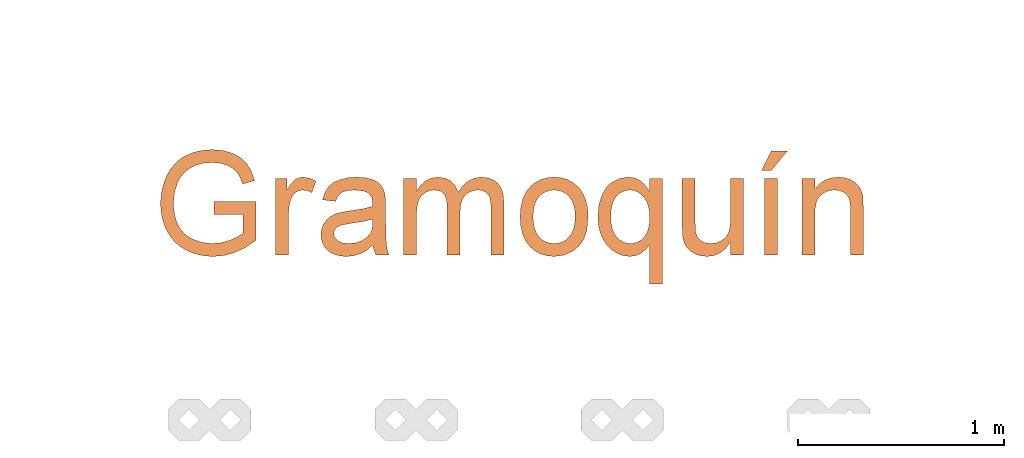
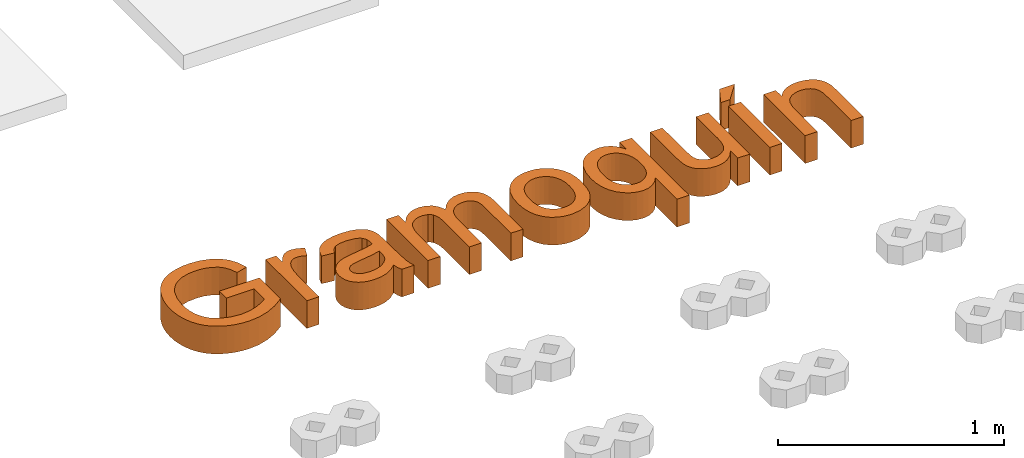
# One storey, part 6 of 19: 1 proxy.
"""IFC2X3 building model written with IfcOpenShell, lengths in metres."""

from ifc_helpers import new_model, entity, si_unit, converted_unit, derived_unit, direction, frame, origin, origin_2d_with_axis, place, context, subcontext, project, spatial, polyline, rectangle, outline, extrude, type_object, element, save


model = new_model("IFC2X3")

# Units and contexts
model_context = context("Model", 3, precision=1e-05, world=origin(), true_north=direction((6.12303176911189e-17, 1.0)))
body_context = subcontext(model_context, "Body", "Model", "MODEL_VIEW")
ifc_project = project(units=[si_unit("LENGTHUNIT", "METRE"), si_unit("AREAUNIT", "SQUARE_METRE"), si_unit("VOLUMEUNIT", "CUBIC_METRE"), converted_unit("PLANEANGLEUNIT", "DEGREE", entity("IfcRatioMeasure", 0.0174532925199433), si_unit("PLANEANGLEUNIT", "RADIAN"), dimensions=[0, 0, 0, 0, 0, 0, 0]), si_unit("MASSUNIT", "GRAM", prefix="KILO"), derived_unit("MASSDENSITYUNIT", [(si_unit("MASSUNIT", "GRAM", prefix="KILO"), 1), (si_unit("LENGTHUNIT", "METRE"), -3)]), derived_unit("MOMENTOFINERTIAUNIT", [(si_unit("LENGTHUNIT", "METRE"), 4)]), si_unit("TIMEUNIT", "SECOND"), si_unit("FREQUENCYUNIT", "HERTZ"), si_unit("THERMODYNAMICTEMPERATUREUNIT", "DEGREE_CELSIUS"), derived_unit("THERMALTRANSMITTANCEUNIT", [(si_unit("MASSUNIT", "GRAM", prefix="KILO"), 1), (si_unit("THERMODYNAMICTEMPERATUREUNIT", "KELVIN"), -1), (si_unit("TIMEUNIT", "SECOND"), -3)]), derived_unit("VOLUMETRICFLOWRATEUNIT", [(si_unit("LENGTHUNIT", "METRE"), 3), (si_unit("TIMEUNIT", "SECOND"), -1)]), si_unit("ELECTRICCURRENTUNIT", "AMPERE"), si_unit("ELECTRICVOLTAGEUNIT", "VOLT"), si_unit("POWERUNIT", "WATT"), si_unit("FORCEUNIT", "NEWTON", prefix="KILO"), si_unit("ILLUMINANCEUNIT", "LUX"), si_unit("LUMINOUSFLUXUNIT", "LUMEN"), si_unit("LUMINOUSINTENSITYUNIT", "CANDELA"), derived_unit("USERDEFINED", [(si_unit("MASSUNIT", "GRAM", prefix="KILO"), -1), (si_unit("LENGTHUNIT", "METRE"), -2), (si_unit("TIMEUNIT", "SECOND"), 3), (si_unit("LUMINOUSFLUXUNIT", "LUMEN"), 1)]), derived_unit("LINEARVELOCITYUNIT", [(si_unit("LENGTHUNIT", "METRE"), 1), (si_unit("TIMEUNIT", "SECOND"), -1)]), si_unit("PRESSUREUNIT", "PASCAL"), derived_unit("USERDEFINED", [(si_unit("LENGTHUNIT", "METRE"), -2), (si_unit("MASSUNIT", "GRAM", prefix="KILO"), 1), (si_unit("TIMEUNIT", "SECOND"), -2)]), derived_unit("LINEARFORCEUNIT", [(si_unit("MASSUNIT", "GRAM", prefix="KILO"), 1), (si_unit("LENGTHUNIT", "METRE"), 1), (si_unit("TIMEUNIT", "SECOND"), -2), (si_unit("LENGTHUNIT", "METRE"), -1)]), derived_unit("PLANARFORCEUNIT", [(si_unit("MASSUNIT", "GRAM", prefix="KILO"), 1), (si_unit("LENGTHUNIT", "METRE"), 1), (si_unit("TIMEUNIT", "SECOND"), -2), (si_unit("LENGTHUNIT", "METRE"), -2)])], contexts=[model_context])

# Site, building, storey
site_placement = place(None, origin())
site = spatial("IfcSite", under=ifc_project, at=site_placement, Name="Default", CompositionType="ELEMENT")
building_placement = place(site_placement, origin())
building = spatial("IfcBuilding", under=site, at=building_placement, CompositionType="ELEMENT")
storey_placement = place(building_placement, origin())
storey = spatial("IfcBuildingStorey", under=building, at=storey_placement, Name="Nivel 1", CompositionType="ELEMENT", Elevation=0.0)

# Proxy
building_element_proxy_type = type_object("IfcBuildingElementProxyType", Name="Texto de modelo:Título", PredefinedType="NOTDEFINED")
proxy_placement = place(storey_placement, origin())
element("IfcBuildingElementProxy", 1, at=proxy_placement, inside=storey, type_object=building_element_proxy_type, Name="Texto de modelo:Título", ObjectType="Texto de modelo:Título", context=body_context, shape_type="SweptSolid", body=[
    extrude(outline(polyline([(0.0587643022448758, 0.0590113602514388), (0.0587643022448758, -0.0037738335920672), (0.26281618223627, -0.0037738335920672), (0.26281618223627, 0.183968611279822), (0.213228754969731, 0.218457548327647), (0.162077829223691, 0.243197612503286), (0.109486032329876, 0.258096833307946), (0.05557599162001, 0.263063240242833), (0.0195120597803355, 0.261089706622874), (-0.0148580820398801, 0.255169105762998), (-0.0475344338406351, 0.245301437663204), (-0.0785169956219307, 0.231486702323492), (-0.106805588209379, 0.213931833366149), (-0.131400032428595, 0.192843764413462), (-0.152300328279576, 0.168222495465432), (-0.169506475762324, 0.140068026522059), (-0.182945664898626, 0.109280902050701), (-0.192545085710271, 0.0767616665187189), (-0.198304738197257, 0.0425103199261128), (-0.200224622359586, 0.00652686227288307), (-0.19831240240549, -0.0294604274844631), (-0.192575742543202, -0.064213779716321), (-0.183014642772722, -0.0977331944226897), (-0.16962910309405, -0.13001867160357), (-0.152656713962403, -0.159652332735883), (-0.132335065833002, -0.185216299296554), (-0.108664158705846, -0.206710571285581), (-0.0816439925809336, -0.224135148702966), (-0.051860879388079, -0.237601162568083), (-0.0199011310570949, -0.247219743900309), (0.0142352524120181, -0.252990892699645), (0.0505482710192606, -0.254914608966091), (0.102266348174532, -0.250454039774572), (0.148772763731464, -0.237072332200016), (0.187936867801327, -0.215735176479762), (0.217628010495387, -0.187408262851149), (0.239593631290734, -0.15072736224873), (0.25558116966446, -0.104328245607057), (0.197701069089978, -0.0880188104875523), (0.184779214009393, -0.121112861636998), (0.169067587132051, -0.146082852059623), (0.148282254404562, -0.164906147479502), (0.120139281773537, -0.179560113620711), (0.0865853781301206, -0.188987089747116), (0.0495672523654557, -0.192129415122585), (0.00623381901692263, -0.188741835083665), (-0.0308149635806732, -0.178579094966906), (-0.0614411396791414, -0.162913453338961), (-0.0855067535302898, -0.143017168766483), (-0.103977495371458, -0.119917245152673), (-0.117819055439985, -0.0946406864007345), (-0.132534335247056, -0.0472452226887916), (-0.13743942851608, 0.00395168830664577), (-0.135964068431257, 0.0353021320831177), (-0.131537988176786, 0.0639930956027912), (-0.124161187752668, 0.0900245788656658), (-0.113833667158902, 0.113396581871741), (-0.100689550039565, 0.13402096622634), (-0.0848629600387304, 0.151809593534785), (-0.0663538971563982, 0.166762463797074), (-0.0451623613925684, 0.17887957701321), (0.00129806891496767, 0.194928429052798), (0.0505482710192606, 0.200278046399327), (0.0940349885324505, 0.196246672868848), (0.136448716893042, 0.184152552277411), (0.173282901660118, 0.167490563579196), (0.200030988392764, 0.149755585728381), (0.200030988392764, 0.0590113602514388), (0.0587643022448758, 0.0590113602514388)])), frame((-4.78640093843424, -3.6312572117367, 0.0), z_axis=(0.0, 0.0, -1.0), x_axis=(1.0, 0.0, 0.0)), (0.0, 0.0, -1.0), 0.15),
    extrude(outline(polyline([(-0.0949442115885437, -0.288007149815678), (-0.0321590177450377, -0.288007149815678), (-0.0321590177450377, -0.0941333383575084), (-0.0296145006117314, -0.0558736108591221), (-0.0219809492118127, -0.0208021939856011), (-0.012891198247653, -0.00124313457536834), (0.00064379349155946, 0.0135334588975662), (0.0173977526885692, 0.0228224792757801), (0.0361444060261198, 0.0259188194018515), (0.0582173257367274, 0.0226998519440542), (0.0802902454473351, 0.0130429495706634), (0.101259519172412, 0.069328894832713), (0.0694990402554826, 0.0838602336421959), (0.0382290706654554, 0.088704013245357), (0.0177503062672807, 0.0856689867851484), (-0.00101167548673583, 0.0765639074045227), (-0.0197123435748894, 0.057924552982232), (-0.040007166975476, 0.0262867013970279), (-0.040007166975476, 0.0808558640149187), (-0.0949442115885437, 0.0808558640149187), (-0.0949442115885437, -0.288007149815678)])), frame((-4.33446275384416, -3.59846515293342, 0.0)), (0.0, 0.0, 1.0), 0.15),
    extrude(outline(polyline([(0.160198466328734, 0.0633183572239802), (0.186081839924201, 0.0633183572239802), (0.209576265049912, 0.0683751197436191), (0.223259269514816, 0.129651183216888), (0.196354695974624, 0.127680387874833), (0.16901119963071, 0.128948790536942), (0.0618611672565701, 0.149608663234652), (-0.0143748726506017, 0.166632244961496), (-0.0686595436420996, 0.175612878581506), (-0.0932733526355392, 0.173350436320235), (-0.114444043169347, 0.166109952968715), (-0.133347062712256, 0.152284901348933), (-0.151157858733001, 0.130268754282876), (-0.166658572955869, 0.0992555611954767), (-0.17863134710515, 0.058439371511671), (-0.185193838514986, 0.0145617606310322), (-0.184356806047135, -0.0251569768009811), (-0.176301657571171, -0.0592785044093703), (-0.161209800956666, -0.0863644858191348), (-0.138424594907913, -0.10811643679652), (-0.107289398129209, -0.12623587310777), (-0.085946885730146, -0.0666701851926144), (-0.108704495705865, -0.0488037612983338), (-0.121173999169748, -0.0277690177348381), (-0.124323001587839, -0.000302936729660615), (-0.119119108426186, 0.0368574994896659), (-0.105885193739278, 0.0753031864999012), (-0.0968791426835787, 0.0896105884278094), (-0.0862803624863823, 0.100641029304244), (-0.0655621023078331, 0.109301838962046), (-0.0372732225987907, 0.107413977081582), (-0.0237098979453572, 0.104008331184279), (-0.0220814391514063, 0.0578462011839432), (-0.0263777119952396, -0.00697087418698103), (-0.0290013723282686, -0.0620468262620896), (-0.0256182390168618, -0.0865653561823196), (-0.0184759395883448, -0.109441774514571), (-0.00688892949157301, -0.130138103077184), (0.00982833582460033, -0.148116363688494), (0.0309323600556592, -0.16206399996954), (0.0556796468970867, -0.170668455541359), (0.0777227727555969, -0.173552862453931), (0.0986131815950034, -0.172104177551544), (0.118350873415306, -0.166322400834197), (0.136935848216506, -0.15620753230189), (0.153501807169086, -0.141840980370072), (0.167182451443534, -0.123304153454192), (0.177977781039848, -0.100597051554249), (0.18588779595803, -0.0737196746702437), (0.190445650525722, -0.0391006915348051), (0.188458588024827, -0.00537611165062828), (0.178763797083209, 0.0284361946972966), (0.160198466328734, 0.0633183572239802)]), holes=[polyline([(0.0376463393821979, 0.0906843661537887), (0.0549197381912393, 0.086450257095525), (0.0819049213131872, 0.0778800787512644), (0.100148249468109, 0.0661732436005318), (0.115770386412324, 0.0454711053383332), (0.126707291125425, 0.0182763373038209), (0.131208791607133, -0.0132611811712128), (0.127524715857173, -0.0469915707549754), (0.117271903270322, -0.0772919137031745), (0.102280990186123, -0.0975818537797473), (0.0842943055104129, -0.107936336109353), (0.065054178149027, -0.108430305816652), (0.0531649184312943, -0.103576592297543), (0.0433479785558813, -0.0947879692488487), (0.0362512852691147, -0.0825389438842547), (0.0325227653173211, -0.0673040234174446), (0.0343615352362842, -0.0123669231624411), (0.0386557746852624, 0.0472362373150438), (0.0376463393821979, 0.0906843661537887)])]), frame((-4.05522705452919, -3.69683473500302, 0.0), z_axis=(0.0, 0.0, 1.0), x_axis=(0.217933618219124, -0.975963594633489, 0.0)), (0.0, 0.0, 1.0), 0.15),
    extrude(outline(polyline([(-0.26520740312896, -0.27459804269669), (-0.202422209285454, -0.27459804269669), (-0.202422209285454, -0.0885723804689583), (-0.200030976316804, -0.0453769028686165), (-0.192857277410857, -0.0136470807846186), (-0.180349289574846, 0.00922291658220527), (-0.161955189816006, 0.0258389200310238), (-0.139667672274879, 0.0359556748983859), (-0.115479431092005, 0.0393279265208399), (-0.0870145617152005, 0.0342695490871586), (-0.0762655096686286, 0.0279465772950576), (-0.0678387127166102, 0.0190944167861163), (-0.0569402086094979, -0.0062281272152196), (-0.0533073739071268, -0.0417287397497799), (-0.0533073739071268, -0.27459804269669), (0.00947781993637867, -0.27459804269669), (0.00947781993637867, -0.0663768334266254), (0.0110144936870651, -0.0405561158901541), (0.0156245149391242, -0.0185215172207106), (0.0233078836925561, -0.000273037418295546), (0.0340645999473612, 0.0141893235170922), (0.0471435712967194, 0.0251874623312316), (0.0617937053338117, 0.0330432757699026), (0.0780150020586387, 0.0377567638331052), (0.0958074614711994, 0.0393279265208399), (0.115075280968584, 0.0368753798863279), (0.131675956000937, 0.0295177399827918), (0.144582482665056, 0.0181593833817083), (0.152767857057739, 0.00370468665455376), (0.157136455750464, -0.017402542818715), (0.158592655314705, -0.0487184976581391), (0.158592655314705, -0.27459804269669), (0.221377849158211, -0.27459804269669), (0.221377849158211, -0.0217404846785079), (0.219580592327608, 0.00778587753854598), (0.214188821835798, 0.0332118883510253), (0.205202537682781, 0.05453754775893), (0.192621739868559, 0.0717628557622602), (0.176707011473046, 0.0850410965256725), (0.15771893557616, 0.0945255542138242), (0.135657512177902, 0.100216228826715), (0.110522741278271, 0.102113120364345), (0.0779805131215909, 0.0975529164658), (0.0486572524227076, 0.083872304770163), (0.022552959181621, 0.0610712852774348), (-0.000332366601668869, 0.0291498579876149), (-0.0140053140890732, 0.059883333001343), (-0.0349132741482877, 0.0829219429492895), (-0.0629029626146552, 0.0973153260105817), (-0.097821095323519, 0.102113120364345), (-0.130409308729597, 0.0974072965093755), (-0.159257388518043, 0.0832898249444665), (-0.183537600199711, 0.0614468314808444), (-0.202422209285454, 0.0335644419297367), (-0.202422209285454, 0.0942649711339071), (-0.26520740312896, 0.0942649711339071), (-0.26520740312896, -0.27459804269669)])), frame((-3.54419577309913, -3.61187426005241, 0.0)), (0.0, 0.0, 1.0), 0.15),
    extrude(outline(polyline([(-0.0131957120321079, -0.170548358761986), (0.0307665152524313, -0.170548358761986), (0.0696520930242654, -0.164512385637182), (0.103461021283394, -0.152440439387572), (0.132193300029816, -0.134332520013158), (0.155411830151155, -0.111243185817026), (0.172679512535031, -0.0842269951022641), (0.183996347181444, -0.053283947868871), (0.189362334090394, -0.0184140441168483), (0.18661868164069, 0.0261717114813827), (0.17241528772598, 0.0679068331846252), (0.161237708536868, 0.0869767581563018), (0.147638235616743, 0.103876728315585), (0.131616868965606, 0.118606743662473), (0.113173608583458, 0.131166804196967), (0.0915479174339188, 0.141494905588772), (0.0659792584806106, 0.149529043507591), (0.00301303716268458, 0.158715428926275), (-0.0385534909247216, 0.158529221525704), (-0.0757586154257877, 0.152292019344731), (-0.108602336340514, 0.140003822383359), (-0.1370846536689, 0.121664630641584), (-0.160392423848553, 0.098442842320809), (-0.17771250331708, 0.0715068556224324), (-0.189044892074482, 0.0408566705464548), (-0.194389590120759, 0.00649228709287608), (-0.1938749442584, -0.0249843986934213), (-0.188105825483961, -0.0543136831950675), (-0.17708223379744, -0.0814955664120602), (-0.160804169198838, -0.1065300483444), (-0.134450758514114, -0.13205715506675), (-0.101064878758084, -0.151235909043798), (-0.060646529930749, -0.164066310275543), (-0.0131957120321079, -0.170548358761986)]), holes=[polyline([(-0.00925174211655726, -0.107887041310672), (-0.0395162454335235, -0.104102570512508), (-0.0654537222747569, -0.0969584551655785), (-0.0870641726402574, -0.0864546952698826), (-0.104347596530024, -0.0725912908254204), (-0.117399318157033, -0.0562452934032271), (-0.126314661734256, -0.038293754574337), (-0.131093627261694, -0.01873667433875), (-0.131736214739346, 0.00242594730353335), (-0.128372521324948, 0.0230712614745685), (-0.121092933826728, 0.0416882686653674), (-0.109897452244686, 0.0582769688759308), (-0.0947860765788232, 0.0728373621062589), (-0.0759345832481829, 0.0844361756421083), (-0.0535187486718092, 0.092140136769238), (-0.0275385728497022, 0.0959492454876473), (0.00200594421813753, 0.0958635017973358), (0.0329855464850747, 0.0920326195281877), (0.0594775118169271, 0.0848525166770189), (0.0814818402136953, 0.0743231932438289), (0.0989985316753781, 0.0604446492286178), (0.112185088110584, 0.044105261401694), (0.12119901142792, 0.026193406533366), (0.126040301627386, 0.00670908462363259), (0.126708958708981, -0.0143477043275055), (0.123328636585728, -0.0352492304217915), (0.116038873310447, -0.0540230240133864), (0.104839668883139, -0.0706690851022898), (0.0897310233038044, -0.0851874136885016), (0.0707470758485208, -0.0966969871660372), (0.0479219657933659, -0.104316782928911), (0.0212556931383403, -0.108046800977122), (-0.00925174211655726, -0.107887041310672)])]), frame((-3.07329150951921, -3.70416308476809, 0.0), z_axis=(0.0, 0.0, 1.0), x_axis=(0.0647659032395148, -0.997900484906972, 0.0)), (0.0, 0.0, 1.0), 0.15),
    extrude(outline(polyline([(0.11312234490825, -0.311998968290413), (0.175907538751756, -0.311998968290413), (0.175907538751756, 0.198130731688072), (0.11312234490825, 0.198130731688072), (0.11312234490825, 0.135590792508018), (0.092674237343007, 0.166385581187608), (0.0687312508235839, 0.188381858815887), (0.0412933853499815, 0.201579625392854), (0.0103606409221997, 0.20597888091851), (-0.0296465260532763, 0.200307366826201), (-0.0662814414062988, 0.183292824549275), (-0.0827211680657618, 0.170616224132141), (-0.0970915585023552, 0.155272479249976), (-0.119624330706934, 0.11658355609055), (-0.133419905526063, 0.0697092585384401), (-0.138018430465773, 0.0171327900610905), (-0.135121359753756, -0.025997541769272), (-0.126430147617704, -0.0642764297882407), (-0.111944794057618, -0.097703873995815), (-0.0916652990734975, -0.126279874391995), (-0.0673774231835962, -0.149161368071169), (-0.0408669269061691, -0.165505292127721), (-0.012133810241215, -0.175311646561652), (0.018821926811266, -0.178580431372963), (0.046842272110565, -0.174441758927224), (0.073268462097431, -0.162025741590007), (0.0960464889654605, -0.143355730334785), (0.11312234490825, -0.12045507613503), (0.11312234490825, -0.311998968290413)]), holes=[polyline([(-0.0752332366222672, 0.0136992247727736), (-0.0735586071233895, 0.0447967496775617), (-0.0685347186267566, 0.0715026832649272), (-0.0601615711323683, 0.0938170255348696), (-0.0484391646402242, 0.111739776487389), (-0.0343101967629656, 0.125500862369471), (-0.0187173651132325, 0.1353302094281), (-0.0016606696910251, 0.141227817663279), (0.0168598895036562, 0.143193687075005), (0.0356103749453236, 0.141082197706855), (0.0531115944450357, 0.134747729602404), (0.0693635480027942, 0.124190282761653), (0.0843662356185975, 0.109409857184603), (0.0969470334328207, 0.0904447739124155), (0.105933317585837, 0.067333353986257), (0.111325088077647, 0.0400755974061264), (0.11312234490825, 0.00867150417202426), (0.111417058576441, -0.0207743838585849), (0.106301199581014, -0.0462042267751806), (0.0977747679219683, -0.0676180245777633), (0.0858377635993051, -0.085015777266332), (0.0715401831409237, -0.0984817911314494), (0.0559320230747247, -0.108100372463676), (0.0390132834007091, -0.113871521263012), (0.0207839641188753, -0.115795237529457), (0.00174223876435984, -0.113771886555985), (-0.0158969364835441, -0.107701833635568), (-0.0321335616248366, -0.0975850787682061), (-0.0469676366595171, -0.0834216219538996), (-0.0593338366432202, -0.0652114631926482), (-0.0681668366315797, -0.0429546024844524), (-0.0734666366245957, -0.0166510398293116), (-0.0752332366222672, 0.0136992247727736)])]), frame((-2.72960683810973, -3.71574002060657, 0.0)), (0.0, 0.0, 1.0), 0.15),
    extrude(outline(polyline([(0.0993741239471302, -0.10269783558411), (0.162159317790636, -0.10269783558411), (0.162159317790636, 0.266165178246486), (0.0993741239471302, 0.266165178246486), (0.0993741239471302, 0.0742534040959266), (0.0968296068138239, 0.0338323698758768), (0.0891960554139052, 0.00429451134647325), (0.0754464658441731, -0.0172725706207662), (0.0545538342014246, -0.0337812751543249), (0.0292159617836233, -0.0442659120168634), (0.00213064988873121, -0.0477607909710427), (-0.0234831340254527, -0.0443425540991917), (-0.0446516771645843, -0.0340878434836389), (-0.0603326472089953, -0.0178550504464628), (-0.0694837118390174, 0.00349743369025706), (-0.0732851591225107, 0.0675089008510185), (-0.0732851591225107, 0.266165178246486), (-0.136070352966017, 0.266165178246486), (-0.136070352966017, 0.0379557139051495), (-0.132391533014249, -0.0204148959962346), (-0.125018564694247, -0.0456454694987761), (-0.113690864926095, -0.066645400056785), (-0.0968602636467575, -0.0839358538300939), (-0.0729785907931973, -0.0980379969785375), (-0.0445137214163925, -0.107418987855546), (-0.0139335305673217, -0.110545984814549), (0.0200035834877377, -0.106093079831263), (0.0502005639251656, -0.0927343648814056), (0.0766574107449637, -0.070469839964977), (0.0993741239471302, -0.0392995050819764), (0.0993741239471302, -0.10269783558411)])), frame((-2.3234511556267, -3.78377446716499, 0.0)), (0.0, 0.0, 1.0), 0.15),
    extrude(outline(polyline([(-0.0549370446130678, -0.0470888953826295), (-0.00784814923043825, -0.0470888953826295), (0.0706333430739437, 0.0470888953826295), (-0.00784814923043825, 0.0470888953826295), (-0.0549370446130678, -0.0470888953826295)])), frame((-2.02002515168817, -3.43127964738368, 0.0)), (0.0, 0.0, 1.0), 0.15),
    extrude(rectangle(XDim=0.0627851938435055, YDim=0.368863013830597, at=origin_2d_with_axis()), frame((-2.02787330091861, -3.7020407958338, 0.0)), (0.0, 0.0, 1.0), 0.15),
    extrude(outline(polyline([(-0.160354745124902, -0.269066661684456), (-0.0975695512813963, -0.269066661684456), (-0.0975695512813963, -0.0733534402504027), (-0.0957799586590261, -0.0416619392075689), (-0.0904111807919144, -0.0155039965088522), (-0.0814632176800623, 0.00512038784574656), (-0.0689360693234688, 0.0202112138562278), (-0.0539410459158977, 0.0309947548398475), (-0.0375894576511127, 0.0386972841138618), (-0.0198813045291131, 0.0433188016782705), (-0.000816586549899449, 0.0448593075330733), (0.0223446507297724, 0.0421155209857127), (0.0422869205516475, 0.0338841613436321), (0.0578452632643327, 0.0210542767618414), (0.067854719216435, 0.00451491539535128), (0.0732809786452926, -0.0185696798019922), (0.0750897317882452, -0.0510352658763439), (0.0750897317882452, -0.269066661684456), (0.137874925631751, -0.269066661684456), (0.137874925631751, -0.0425739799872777), (0.13456398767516, 0.0181265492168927), (0.127160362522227, 0.0430352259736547), (0.11574069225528, 0.0642957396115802), (0.0989100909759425, 0.0818621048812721), (0.0752736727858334, 0.0956883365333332), (0.0469314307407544, 0.104655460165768), (0.0159833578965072, 0.107644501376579), (-0.0189807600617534, 0.10393502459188), (-0.0495609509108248, 0.0928065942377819), (-0.0757572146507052, 0.074259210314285), (-0.0975695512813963, 0.0482928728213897), (-0.0975695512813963, 0.0997963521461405), (-0.160354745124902, 0.0997963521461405), (-0.160354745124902, -0.269066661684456)])), frame((-1.71840372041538, -3.61740564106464, 0.0)), (0.0, 0.0, 1.0), 0.15),
])

save(model, "model.ifc")
